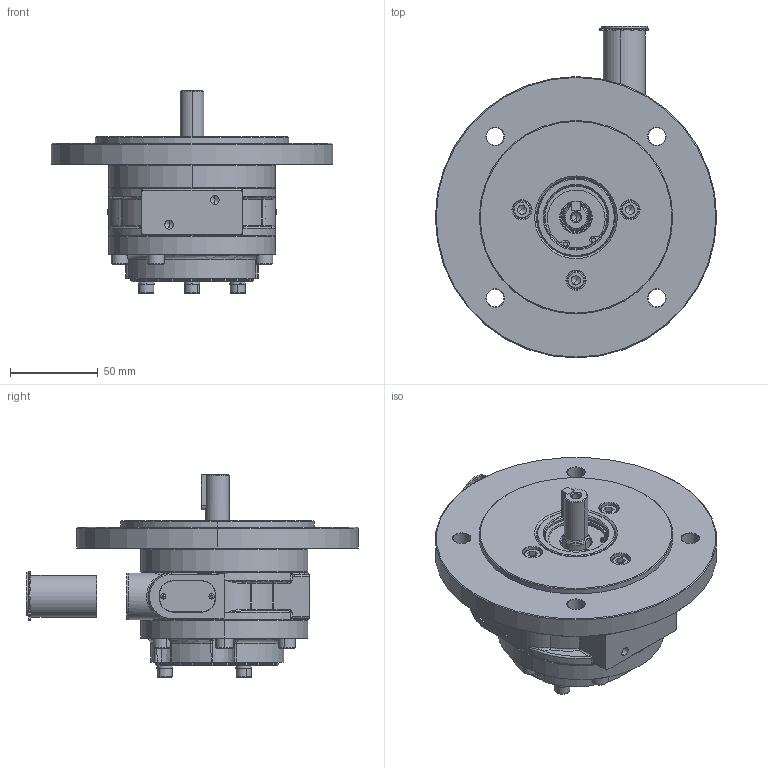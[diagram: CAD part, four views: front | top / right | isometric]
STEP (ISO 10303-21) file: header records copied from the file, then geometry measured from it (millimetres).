
FILE_DESCRIPTION (( 'STEP AP214' ), '1' );
FILE_NAME ('2VMD (IEC)_Solid 29-07-25.STEP', '2025-07-29T10:01:52', ( '' ), ( '' ), 'SwSTEP 2.0', 'SolidWorks 2017', '' );
FILE_SCHEMA (( 'AUTOMOTIVE_DESIGN' ));
Length unit declared in the file: millimetre
Products named in the file (2): 2VMD (IEC)_Solid 29-07-25
Bounding box: 160 x 188.8 x 115.18 mm (x, y, z)
Volume: 659254.2 mm3; surface area: 185019.4 mm2
Topology: 42 solids, 42 shells, 1596 faces, 3845 edges, 2311 vertices
Faces by surface type: plane 542, cylinder 445, cone 359, torus 141, bspline 97, sphere 12
Entity records: 73365 total; most frequent: CARTESIAN_POINT 15768, DIRECTION 8290, ORIENTED_EDGE 7888, EDGE_CURVE 3944, AXIS2_PLACEMENT_3D 3246, VERTEX_POINT 2426, EDGE_LOOP 1894, LINE 1798
